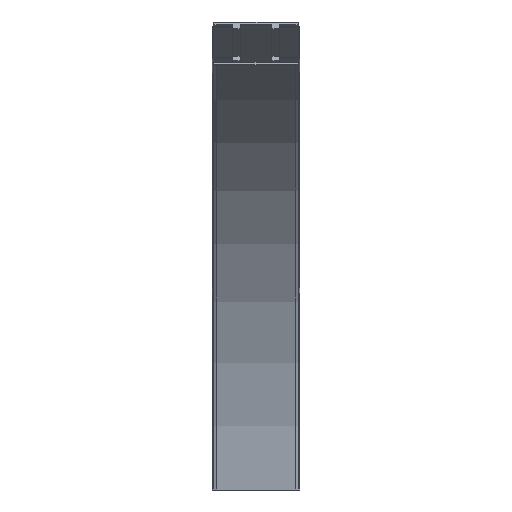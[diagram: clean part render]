
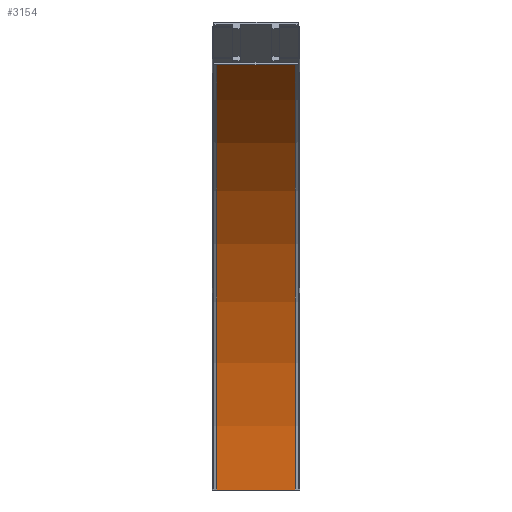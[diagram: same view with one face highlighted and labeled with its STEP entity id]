
A CAD part, front view. The second image highlights one B-rep face of the part: STEP entity #3154.
In plain terms, the highlighted cylindrical face has radius 817.5 mm (diameter 1635 mm), a partial arc.
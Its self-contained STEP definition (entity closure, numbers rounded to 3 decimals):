
#3096=CARTESIAN_POINT('',(104.,-482.75,707.976));
#3097=VERTEX_POINT('',#3096);
#3104=CARTESIAN_POINT('',(104.,-74.,0.0));
#3105=VERTEX_POINT('',#3104);
#3106=CARTESIAN_POINT('',(104.,-891.5,0.0));
#3107=DIRECTION('',(1.0,0.0,0.0));
#3108=DIRECTION('',(0.0,1.0,0.0));
#3109=AXIS2_PLACEMENT_3D('',#3106,#3107,#3108);
#3110=CIRCLE('',#3109,817.5);
#3111=EDGE_CURVE('',#3105,#3097,#3110,.T.);
#3123=CARTESIAN_POINT('',(39.,-891.5,0.0));
#3124=DIRECTION('',(1.0,0.0,0.0));
#3125=DIRECTION('',(0.0,1.0,0.0));
#3126=AXIS2_PLACEMENT_3D('',#3123,#3124,#3125);
#3127=CYLINDRICAL_SURFACE('',#3126,817.5);
#3128=CARTESIAN_POINT('',(-26.,-482.75,707.976));
#3129=VERTEX_POINT('',#3128);
#3130=CARTESIAN_POINT('',(104.0,-482.75,707.976));
#3131=DIRECTION('',(-1.0,0.0,0.0));
#3132=VECTOR('',#3131,130.);
#3133=LINE('',#3130,#3132);
#3134=EDGE_CURVE('',#3097,#3129,#3133,.T.);
#3135=ORIENTED_EDGE('',*,*,#3134,.T.);
#3136=CARTESIAN_POINT('',(-26.,-74.,0.0));
#3137=VERTEX_POINT('',#3136);
#3138=CARTESIAN_POINT('',(-26.,-891.5,0.0));
#3139=DIRECTION('',(1.0,0.0,0.0));
#3140=DIRECTION('',(0.0,1.0,0.0));
#3141=AXIS2_PLACEMENT_3D('',#3138,#3139,#3140);
#3142=CIRCLE('',#3141,817.5);
#3143=EDGE_CURVE('',#3137,#3129,#3142,.T.);
#3144=ORIENTED_EDGE('',*,*,#3143,.F.);
#3145=CARTESIAN_POINT('',(-26.,-74.,0.0));
#3146=DIRECTION('',(1.0,0.0,0.0));
#3147=VECTOR('',#3146,130.);
#3148=LINE('',#3145,#3147);
#3149=EDGE_CURVE('',#3137,#3105,#3148,.T.);
#3150=ORIENTED_EDGE('',*,*,#3149,.T.);
#3151=ORIENTED_EDGE('',*,*,#3111,.T.);
#3152=EDGE_LOOP('',(#3135,#3144,#3150,#3151));
#3153=FACE_OUTER_BOUND('',#3152,.T.);
#3154=ADVANCED_FACE('',(#3153),#3127,.F.);
